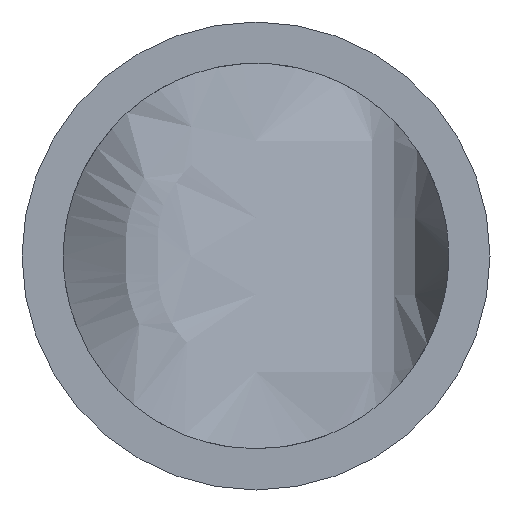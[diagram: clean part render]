
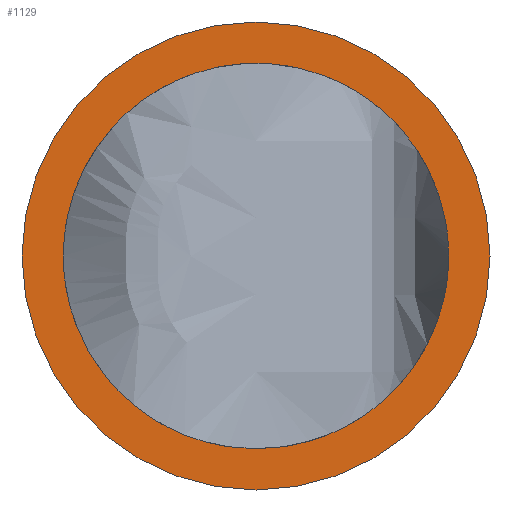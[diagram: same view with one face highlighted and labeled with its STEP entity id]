
A CAD part, front view. The second image highlights one B-rep face of the part: STEP entity #1129.
In plain terms, the highlighted planar face has unit normal (0, -1, 0).
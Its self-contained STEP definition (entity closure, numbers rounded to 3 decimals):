
#780=CARTESIAN_POINT('',(0.,-44.,0.));
#781=DIRECTION('',(0.,-1.,0.));
#782=DIRECTION('',(1.,0.,0.));
#783=AXIS2_PLACEMENT_3D('',#780,#781,#782);
#856=CARTESIAN_POINT('',(0.,-44.,0.));
#857=DIRECTION('',(0.,1.,0.));
#858=DIRECTION('',(1.,0.,0.));
#859=AXIS2_PLACEMENT_3D('',#856,#857,#858);
#871=CARTESIAN_POINT('',(0.,-44.,0.));
#872=DIRECTION('',(0.,1.,0.));
#873=DIRECTION('',(1.,0.,0.));
#874=AXIS2_PLACEMENT_3D('',#871,#872,#873);
#879=CARTESIAN_POINT('',(0.,-44.,0.));
#880=DIRECTION('',(0.,-1.,0.));
#881=DIRECTION('',(1.,0.,0.));
#882=AXIS2_PLACEMENT_3D('',#879,#880,#881);
#1029=CARTESIAN_POINT('',(4.25,-44.,0.));
#1030=VERTEX_POINT('',#1029);
#1037=CARTESIAN_POINT('',(-4.25,-44.,0.));
#1038=VERTEX_POINT('',#1037);
#1039=CARTESIAN_POINT('',(3.5,-44.,0.));
#1040=CARTESIAN_POINT('',(-3.5,-44.,0.));
#1041=VERTEX_POINT('',#1039);
#1042=VERTEX_POINT('',#1040);
#1114=CARTESIAN_POINT('',(0.,-44.,0.));
#1115=DIRECTION('',(0.,-1.,0.));
#1116=DIRECTION('',(-1.,0.,0.));
#1117=AXIS2_PLACEMENT_3D('',#1114,#1115,#1116);
#1118=PLANE('',#1117);
#1120=ORIENTED_EDGE('',*,*,#1119,.T.);
#1122=ORIENTED_EDGE('',*,*,#1121,.F.);
#1123=EDGE_LOOP('',(#1120,#1122));
#1124=FACE_OUTER_BOUND('',#1123,.F.);
#1125=ORIENTED_EDGE('',*,*,#1080,.T.);
#1126=ORIENTED_EDGE('',*,*,#1101,.F.);
#1127=EDGE_LOOP('',(#1125,#1126));
#1128=FACE_BOUND('',#1127,.F.);
#784=CIRCLE('',#783,3.5);
#860=CIRCLE('',#859,3.5);
#875=CIRCLE('',#874,4.25);
#883=CIRCLE('',#882,4.25);
#1080=EDGE_CURVE('',#1041,#1042,#784,.T.);
#1101=EDGE_CURVE('',#1041,#1042,#860,.T.);
#1119=EDGE_CURVE('',#1030,#1038,#875,.T.);
#1121=EDGE_CURVE('',#1030,#1038,#883,.T.);
#1129=ADVANCED_FACE('',(#1124,#1128),#1118,.T.);
